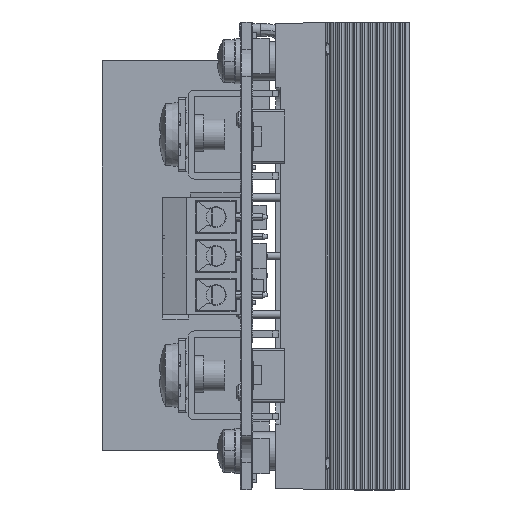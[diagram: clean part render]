
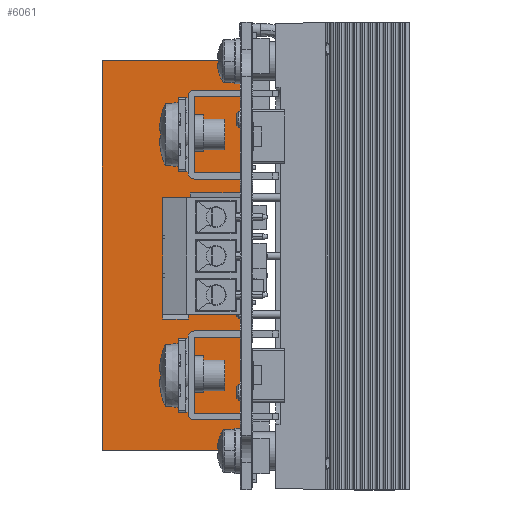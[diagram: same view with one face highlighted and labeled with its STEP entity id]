
A CAD part, left-side view. The second image highlights one B-rep face of the part: STEP entity #6061.
In plain terms, the highlighted planar face has unit normal (-1, 0, 0).
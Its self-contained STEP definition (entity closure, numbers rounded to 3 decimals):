
#1258 = PLANE ( 'NONE',  #79084 ) ;
#2032 = CARTESIAN_POINT ( 'NONE',  ( -20.04, 15.69, 25.443 ) ) ;
#3534 = CARTESIAN_POINT ( 'NONE',  ( -20.04, 24.69, 25.443 ) ) ;
#4093 = CARTESIAN_POINT ( 'NONE',  ( -20.04, 15.69, 0.043 ) ) ;
#6061 = ADVANCED_FACE ( 'NONE', ( #52076 ), #1258, .F. ) ;
#10020 = CARTESIAN_POINT ( 'NONE',  ( -20.04, 33.69, -25.357 ) ) ;
#10720 = VERTEX_POINT ( 'NONE', #10020 ) ;
#11312 = CARTESIAN_POINT ( 'NONE',  ( -20.04, 15.69, 25.443 ) ) ;
#15454 = CARTESIAN_POINT ( 'NONE',  ( -20.04, 15.69, -25.357 ) ) ;
#16057 = CARTESIAN_POINT ( 'NONE',  ( -20.04, 33.69, 25.443 ) ) ;
#18255 = EDGE_LOOP ( 'NONE', ( #136769, #67224, #96813, #61355 ) ) ;
#24834 = EDGE_CURVE ( 'NONE', #41159, #124080, #83051, .T. ) ;
#28770 = VECTOR ( 'NONE', #72115, 1000. ) ;
#37135 = DIRECTION ( 'NONE',  ( 0., -1., 0. ) ) ;
#39083 = EDGE_CURVE ( 'NONE', #69958, #124080, #82421, .T. ) ;
#41159 = VERTEX_POINT ( 'NONE', #16057 ) ;
#45778 = DIRECTION ( 'NONE',  ( 1., 0., 0. ) ) ;
#49518 = CARTESIAN_POINT ( 'NONE',  ( -20.04, 33.69, 0.043 ) ) ;
#52076 = FACE_OUTER_BOUND ( 'NONE', #18255, .T. ) ;
#58312 = DIRECTION ( 'NONE',  ( 0., 0., -1. ) ) ;
#61355 = ORIENTED_EDGE ( 'NONE', *, *, #39083, .T. ) ;
#62521 = VECTOR ( 'NONE', #145543, 1000. ) ;
#65703 = CARTESIAN_POINT ( 'NONE',  ( -20.04, 24.69, -25.357 ) ) ;
#67013 = EDGE_CURVE ( 'NONE', #10720, #69958, #126920, .T. ) ;
#67224 = ORIENTED_EDGE ( 'NONE', *, *, #71409, .F. ) ;
#69958 = VERTEX_POINT ( 'NONE', #15454 ) ;
#71409 = EDGE_CURVE ( 'NONE', #10720, #41159, #81588, .T. ) ;
#72115 = DIRECTION ( 'NONE',  ( 0., 0., 1. ) ) ;
#79084 = AXIS2_PLACEMENT_3D ( 'NONE', #11312, #45778, #58312 ) ;
#81588 = LINE ( 'NONE', #49518, #101264 ) ;
#82421 = LINE ( 'NONE', #4093, #28770 ) ;
#83051 = LINE ( 'NONE', #3534, #124189 ) ;
#96545 = DIRECTION ( 'NONE',  ( 0., 0., 1. ) ) ;
#96813 = ORIENTED_EDGE ( 'NONE', *, *, #67013, .T. ) ;
#101264 = VECTOR ( 'NONE', #96545, 1000. ) ;
#124080 = VERTEX_POINT ( 'NONE', #2032 ) ;
#124189 = VECTOR ( 'NONE', #37135, 1000. ) ;
#126920 = LINE ( 'NONE', #65703, #62521 ) ;
#136769 = ORIENTED_EDGE ( 'NONE', *, *, #24834, .F. ) ;
#145543 = DIRECTION ( 'NONE',  ( 0., -1., 0. ) ) ;
